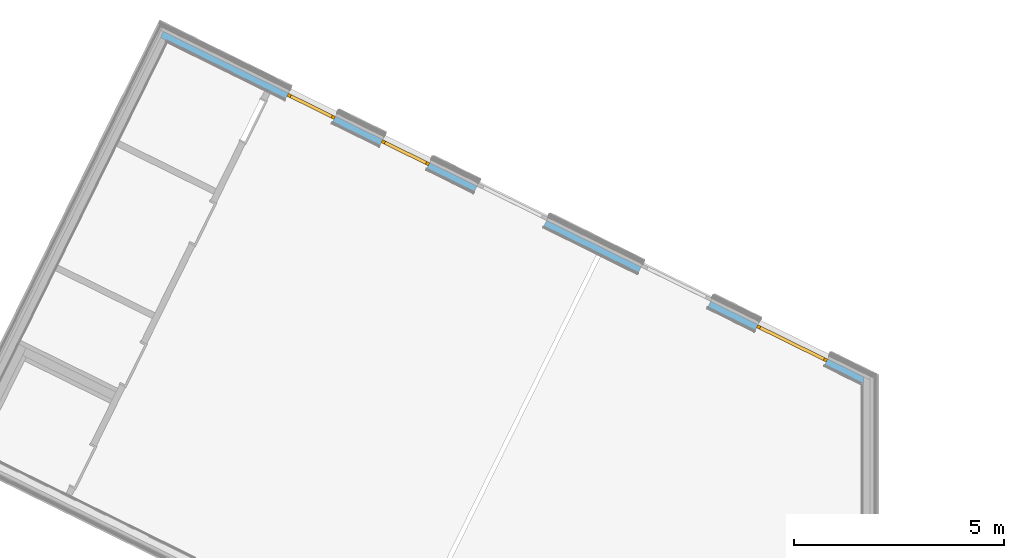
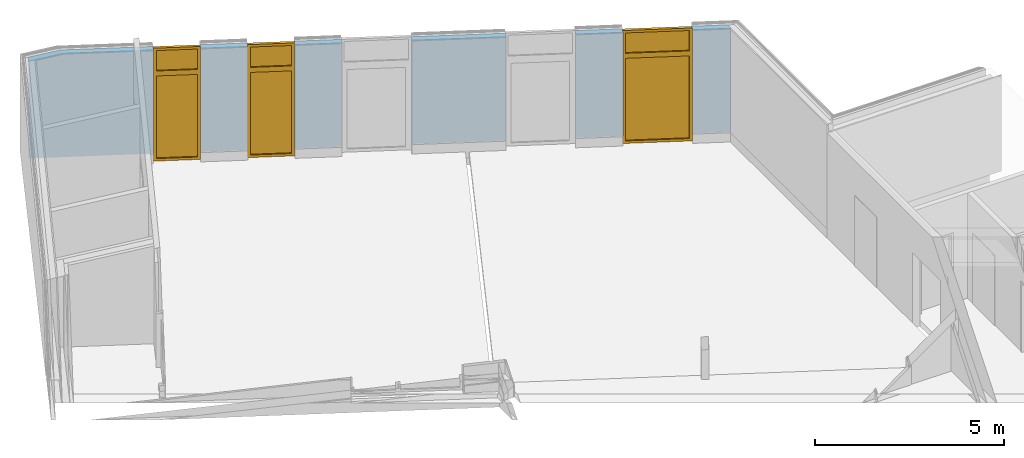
# One storey, part 19 of 23: 3 windows, 5 openings, plus 1 element that does not belong to this part.
"""IFC4 building model written with IfcOpenShell, lengths in metres."""

from ifc_helpers import new_model, entity, si_unit, converted_unit, derived_unit, frame, origin, origin_with_axes, place, context, subcontext, project, spatial, polyline, outline, extrude, clip, bounded_halfspace, closed_shell, open_shell, surface_model, source, transform, mapped, material, element, fill, save


model = new_model("IFC4")

# Units and contexts
model_context = context("Model", 3, precision=1e-05, world=origin())
body_context = subcontext(model_context, "Body", "Model", "MODEL_VIEW")
ifc_project = project(units=[si_unit("LENGTHUNIT", "METRE"), si_unit("AREAUNIT", "SQUARE_METRE"), si_unit("VOLUMEUNIT", "CUBIC_METRE"), si_unit("MASSUNIT", "GRAM", prefix="KILO"), converted_unit("PLANEANGLEUNIT", "DEGREE", entity("IfcPlaneAngleMeasure", 0.0174532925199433), si_unit("PLANEANGLEUNIT", "RADIAN"), dimensions=[0, 0, 0, 0, 0, 0, 0]), derived_unit("THERMALTRANSMITTANCEUNIT", [(si_unit("POWERUNIT", "WATT"), 1), (si_unit("THERMODYNAMICTEMPERATUREUNIT", "KELVIN"), -1), (si_unit("LENGTHUNIT", "METRE"), -2)]), derived_unit("VOLUMETRICFLOWRATEUNIT", [(si_unit("LENGTHUNIT", "METRE"), 3), (converted_unit("TIMEUNIT", "hour", entity("IfcTimeMeasure", 3600.0), si_unit("TIMEUNIT", "SECOND"), dimensions=[0, 0, 1, 0, 0, 0, 0]), -1), (si_unit("LENGTHUNIT", "METRE"), -1)])], contexts=[model_context])

# Site, building, storey
site_placement = place(None, origin())
site = spatial("IfcSite", under=ifc_project, at=site_placement, Name="Psychiatrie Neubau Wunstorf", CompositionType="ELEMENT")
building_placement = place(site_placement, origin())
building = spatial("IfcBuilding", under=site, at=building_placement, Name="Neubau H1 Sozialzentrum", CompositionType="ELEMENT")
storey_placement = place(building_placement, frame((0.0, 0.0, 0.7)))
storey = spatial("IfcBuildingStorey", under=building, at=storey_placement, Name="H1 Ebene 0", CompositionType="ELEMENT", Elevation=0.7)

# Wall, openings, windows
ifc_material = material(Name="WA-HD")
wall_placement = place(storey_placement, frame((-21.843734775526, 41.4813535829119, 0.3), z_axis=(0.0, 0.0, 1.0), x_axis=(0.896905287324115, -0.442222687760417, 0.0)))
wall = element("IfcWall", 1, at=wall_placement, inside=storey, material=ifc_material, context=body_context, shape_type="Clipping", body=[
    clip(extrude(outline(polyline([(-3.64414217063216, 7.39096041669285), (14.9901659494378, 7.39096041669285), (14.9112776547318, 7.5509597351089), (-3.64414217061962, 7.55095973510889), (-3.64414217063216, 7.39096041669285)])), frame((3.64414217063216, -7.39096041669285, 0.0), z_axis=(0.0, 0.0, 1.0), x_axis=(1.0, 0.0, 0.0)), (0.0, 0.0, 1.0), 3.35), bounded_halfspace(frame((0.442864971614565, 0.079999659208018, 3.24814105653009), z_axis=(0.222899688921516, 0.105378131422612, -0.969129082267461), x_axis=(-0.427404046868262, 0.904060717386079, 0.0)), True, origin_with_axes(), polyline([(0.923550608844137, 0.0), (0.847909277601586, 0.15999931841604), (0.0, 0.15999931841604), (0.0, 0.0), (0.923550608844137, 0.0)]))),
])
opening_1_placement = place(wall_placement, frame((17.6098696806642, 0.159999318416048, -0.5), z_axis=(0.0, -1.0, 0.0), x_axis=(0.0, 0.0, 1.0)))
opening_1 = element("IfcOpeningElement", 2, at=opening_1_placement, cuts=wall, Name="Fensteröffnung", ObjectType="Opening", context=body_context, shape_type="SweptSolid", body=[
    extrude(outline(polyline([(3.85, 1.85), (3.85, 0.0), (0.0, 0.0), (0.0, 1.85), (3.85, 1.85)])), origin_with_axes(), (0.0, 0.0, 1.0), 0.159999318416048),
])
opening_2_placement = place(wall_placement, frame((7.05986968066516, 0.159999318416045, -0.5), z_axis=(5.68436610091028e-15, -1.0, 0.0), x_axis=(0.0, 0.0, 1.0)))
opening_2 = element("IfcOpeningElement", 3, at=opening_2_placement, cuts=wall, Name="Fensteröffnung", ObjectType="Opening", context=body_context, shape_type="SweptSolid", body=[
    extrude(outline(polyline([(3.85, 1.25000000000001), (3.85, 0.0), (0.0, 0.0), (0.0, 1.25000000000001), (3.85, 1.25000000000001)])), origin_with_axes(), (0.0, 0.0, 1.0), 0.159999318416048),
])
opening_3_placement = place(wall_placement, frame((4.55986968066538, 0.159999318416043, -0.5), z_axis=(-5.68436610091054e-15, -1.0, 0.0), x_axis=(0.0, 0.0, 1.0)))
opening_3 = element("IfcOpeningElement", 4, at=opening_3_placement, cuts=wall, Name="Fensteröffnung", ObjectType="Opening", context=body_context, shape_type="SweptSolid", body=[
    extrude(outline(polyline([(3.85, 1.25000000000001), (3.85, 0.0), (0.0, 0.0), (0.0, 1.25000000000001), (3.85, 1.25000000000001)])), origin_with_axes(), (0.0, 0.0, 1.0), 0.15999931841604),
])
opening_4_placement = place(wall_placement, frame((12.6598668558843, 0.0, -0.5), z_axis=(0.0, 1.0, 0.0), x_axis=(0.0, 0.0, 1.0)))
element("IfcOpeningElement", 5, at=opening_4_placement, cuts=wall, Name="Türöffnung", ObjectType="Opening", context=body_context, shape_type="SweptSolid", body=[
    extrude(outline(polyline([(3.85, 1.85000000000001), (3.85, 0.0), (0.0, 0.0), (0.0, 1.85000000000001), (3.85, 1.85000000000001)])), origin_with_axes(), (0.0, 0.0, 1.0), 0.159999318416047),
])
opening_5_placement = place(wall_placement, frame((8.30986685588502, 0.0, -0.5), z_axis=(0.0, 1.0, 0.0), x_axis=(0.0, 0.0, 1.0)))
element("IfcOpeningElement", 6, at=opening_5_placement, cuts=wall, Name="Türöffnung", ObjectType="Opening", context=body_context, shape_type="SweptSolid", body=[
    extrude(outline(polyline([(3.85, 1.85), (3.85, 0.0), (0.0, 0.0), (0.0, 1.85), (3.85, 1.85)])), origin_with_axes(), (0.0, 0.0, 1.0), 0.15999931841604),
])
shared_shape_1 = source(origin_with_axes(), body_context, "Body", "SurfaceModel", [
    surface_model("IfcShellBasedSurfaceModel", [(1.84999999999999, -1.38884274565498e-06, 3.85), (1.84999999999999, -1.38884274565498e-06, 0.2), (1.76999999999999, -1.38884274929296e-06, 0.2), (1.76999999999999, -1.38884274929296e-06, 3.85), (1.84999999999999, 0.079998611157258, 0.2), (1.84999999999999, 0.079998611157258, 3.85), (1.76999999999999, 0.079998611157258, 3.85), (1.76999999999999, 0.079998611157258, 0.2)], [closed_shell([[[0, 1, 2, 3]], [[4, 5, 6, 7]], [[1, 0, 5, 4]], [[2, 1, 4, 7]], [[3, 2, 7, 6]], [[0, 3, 6, 5]]], orient=[[False], [False], [False], [False], [False], [False]])]),
    surface_model("IfcShellBasedSurfaceModel", [(0.0799999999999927, -1.38884274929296e-06, 3.85), (0.0799999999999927, -1.38884274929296e-06, 0.2), (0.0, -1.38884274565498e-06, 0.2), (0.0, -1.38884274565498e-06, 3.85), (0.0799999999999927, 0.0799986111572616, 0.2), (0.0799999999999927, 0.0799986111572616, 3.85), (0.0, 0.079998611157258, 3.85), (0.0, 0.0799986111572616, 0.2)], [closed_shell([[[0, 1, 2, 3]], [[4, 5, 6, 7]], [[1, 0, 5, 4]], [[2, 1, 4, 7]], [[3, 2, 7, 6]], [[0, 3, 6, 5]]], orient=[[False], [False], [False], [False], [False], [False]])]),
    surface_model("IfcShellBasedSurfaceModel", [(1.76999999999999, -1.38884274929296e-06, 0.28), (1.76999999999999, -1.38884274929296e-06, 0.2), (0.0799999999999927, -1.38884274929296e-06, 0.2), (0.0799999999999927, -1.38884274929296e-06, 0.28), (1.76999999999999, 0.079998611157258, 0.2), (1.76999999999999, 0.079998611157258, 0.28), (0.0799999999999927, 0.0799986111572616, 0.28), (0.0799999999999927, 0.0799986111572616, 0.2)], [closed_shell([[[0, 1, 2, 3]], [[4, 5, 6, 7]], [[1, 0, 5, 4]], [[2, 1, 4, 7]], [[3, 2, 7, 6]], [[0, 3, 6, 5]]], orient=[[False], [False], [False], [False], [False], [False]])]),
    surface_model("IfcShellBasedSurfaceModel", [(1.76999999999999, -1.38884274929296e-06, 3.85), (1.76999999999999, -1.38884274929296e-06, 3.77), (0.0799999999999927, -1.38884274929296e-06, 3.77), (0.0799999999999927, -1.38884274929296e-06, 3.85), (1.76999999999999, 0.079998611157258, 3.77), (1.76999999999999, 0.079998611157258, 3.85), (0.0799999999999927, 0.0799986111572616, 3.85), (0.0799999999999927, 0.0799986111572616, 3.77)], [closed_shell([[[0, 1, 2, 3]], [[4, 5, 6, 7]], [[1, 0, 5, 4]], [[2, 1, 4, 7]], [[3, 2, 7, 6]], [[0, 3, 6, 5]]], orient=[[False], [False], [False], [False], [False], [False]])]),
    surface_model("IfcShellBasedSurfaceModel", [(1.76999999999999, -1.38884274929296e-06, 3.11), (1.76999999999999, -1.38884274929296e-06, 2.95), (0.0799999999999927, -1.38884274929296e-06, 2.95), (0.0799999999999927, -1.38884274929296e-06, 3.11), (1.76999999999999, 0.079998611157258, 2.95), (1.76999999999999, 0.079998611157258, 3.11), (0.0799999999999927, 0.0799986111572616, 3.11), (0.0799999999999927, 0.0799986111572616, 2.95)], [closed_shell([[[0, 1, 2, 3]], [[4, 5, 6, 7]], [[1, 0, 5, 4]], [[2, 1, 4, 7]], [[3, 2, 7, 6]], [[0, 3, 6, 5]]], orient=[[False], [False], [False], [False], [False], [False]])]),
    surface_model("IfcShellBasedSurfaceModel", [(1.76999999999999, 0.039998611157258, 0.28), (0.0799999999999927, 0.039998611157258, 0.28), (0.0799999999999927, 0.0399986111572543, 2.95), (1.76999999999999, 0.039998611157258, 2.95)], [open_shell([[[0, 1, 2, 3]]], orient=[[False]])]),
    surface_model("IfcShellBasedSurfaceModel", [(1.76999999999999, 0.039998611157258, 3.11), (0.0799999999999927, 0.0399986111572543, 3.11), (0.0799999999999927, 0.0399986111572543, 3.77), (1.76999999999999, 0.039998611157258, 3.77)], [open_shell([[[0, 1, 2, 3]]], orient=[[False]])]),
])
window_1_placement = place(opening_1_placement, frame((0.0, 1.85, 0.0799993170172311), z_axis=(1.0, 0.0, 0.0), x_axis=(0.0, -1.0, -7.7715611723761e-16)))
window_1 = element("IfcWindow", 7, at=window_1_placement, inside=storey, Name="Fenster-SmartPart", OverallHeight=3.85, OverallWidth=1.85, PartitioningType="USERDEFINED", PredefinedType="WINDOW", context=body_context, shape_type="MappedRepresentation", body=[
    mapped(shared_shape_1, transform((0.0, 0.0, 0.0), x_axis=(1.0, 0.0, 0.0), y_axis=(0.0, 1.0, 0.0), z_axis=(0.0, 0.0, 1.0), scale=1.0)),
])
fill(opening_1, window_1)
shared_shape_2 = source(origin_with_axes(), body_context, "Body", "SurfaceModel", [
    surface_model("IfcShellBasedSurfaceModel", [(1.25000000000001, -1.38884277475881e-06, 3.85), (1.25000000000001, -1.38884277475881e-06, 0.2), (1.17000000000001, -1.38884277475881e-06, 0.2), (1.17000000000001, -1.38884277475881e-06, 3.85), (1.25000000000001, 0.0799986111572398, 0.2), (1.25000000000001, 0.0799986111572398, 3.85), (1.17000000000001, 0.0799986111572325, 3.85), (1.17000000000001, 0.0799986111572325, 0.2)], [closed_shell([[[0, 1, 2, 3]], [[4, 5, 6, 7]], [[1, 0, 5, 4]], [[2, 1, 4, 7]], [[3, 2, 7, 6]], [[0, 3, 6, 5]]], orient=[[False], [False], [False], [False], [False], [False]])]),
    surface_model("IfcShellBasedSurfaceModel", [(0.08, -1.38884276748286e-06, 3.85), (0.08, -1.38884276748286e-06, 0.2), (0.0, -1.38884277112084e-06, 0.2), (0.0, -1.38884277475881e-06, 3.85), (0.08, 0.0799986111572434, 0.2), (0.08, 0.0799986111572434, 3.85), (0.0, 0.0799986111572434, 3.85), (0.0, 0.0799986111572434, 0.2)], [closed_shell([[[0, 1, 2, 3]], [[4, 5, 6, 7]], [[1, 0, 5, 4]], [[2, 1, 4, 7]], [[3, 2, 7, 6]], [[0, 3, 6, 5]]], orient=[[False], [False], [False], [False], [False], [False]])]),
    surface_model("IfcShellBasedSurfaceModel", [(1.17000000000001, -1.38884277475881e-06, 0.28), (1.17000000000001, -1.38884277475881e-06, 0.2), (0.08, -1.38884276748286e-06, 0.2), (0.08, -1.38884276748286e-06, 0.28), (1.17000000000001, 0.0799986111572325, 0.2), (1.17000000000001, 0.0799986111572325, 0.28), (0.08, 0.0799986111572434, 0.28), (0.08, 0.0799986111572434, 0.2)], [closed_shell([[[0, 1, 2, 3]], [[4, 5, 6, 7]], [[1, 0, 5, 4]], [[2, 1, 4, 7]], [[3, 2, 7, 6]], [[0, 3, 6, 5]]], orient=[[False], [False], [False], [False], [False], [False]])]),
    surface_model("IfcShellBasedSurfaceModel", [(1.17000000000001, -1.38884277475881e-06, 3.85), (1.17000000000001, -1.38884277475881e-06, 3.77), (0.08, -1.38884276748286e-06, 3.77), (0.08, -1.38884276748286e-06, 3.85), (1.17000000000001, 0.0799986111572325, 3.77), (1.17000000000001, 0.0799986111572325, 3.85), (0.08, 0.0799986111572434, 3.85), (0.08, 0.0799986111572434, 3.77)], [closed_shell([[[0, 1, 2, 3]], [[4, 5, 6, 7]], [[1, 0, 5, 4]], [[2, 1, 4, 7]], [[3, 2, 7, 6]], [[0, 3, 6, 5]]], orient=[[False], [False], [False], [False], [False], [False]])]),
    surface_model("IfcShellBasedSurfaceModel", [(1.17000000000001, -1.38884277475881e-06, 3.11), (1.17000000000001, -1.38884277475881e-06, 2.95), (0.08, -1.38884276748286e-06, 2.95), (0.08, -1.38884276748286e-06, 3.11), (1.17000000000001, 0.0799986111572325, 2.95), (1.17000000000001, 0.0799986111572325, 3.11), (0.08, 0.0799986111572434, 3.11), (0.08, 0.0799986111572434, 2.95)], [closed_shell([[[0, 1, 2, 3]], [[4, 5, 6, 7]], [[1, 0, 5, 4]], [[2, 1, 4, 7]], [[3, 2, 7, 6]], [[0, 3, 6, 5]]], orient=[[False], [False], [False], [False], [False], [False]])]),
    surface_model("IfcShellBasedSurfaceModel", [(1.17000000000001, 0.0399986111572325, 0.28), (0.08, 0.0399986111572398, 0.28), (0.08, 0.0399986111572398, 2.95), (1.17000000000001, 0.0399986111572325, 2.95)], [open_shell([[[0, 1, 2, 3]]], orient=[[False]])]),
    surface_model("IfcShellBasedSurfaceModel", [(1.17000000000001, 0.0399986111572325, 3.11), (0.08, 0.0399986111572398, 3.11), (0.08, 0.0399986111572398, 3.77), (1.17000000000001, 0.0399986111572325, 3.77)], [open_shell([[[0, 1, 2, 3]]], orient=[[False]])]),
])
window_2_placement = place(opening_2_placement, frame((0.0, 1.25, 0.0799993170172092), z_axis=(1.0, 0.0, 0.0), x_axis=(0.0, -1.0, 3.27515792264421e-15)))
window_2 = element("IfcWindow", 8, at=window_2_placement, inside=storey, Name="Fenster-SmartPart", OverallHeight=3.85, OverallWidth=1.25, PartitioningType="USERDEFINED", PredefinedType="WINDOW", context=body_context, shape_type="MappedRepresentation", body=[
    mapped(shared_shape_2, transform((0.0, 0.0, 0.0), x_axis=(1.0, 0.0, 0.0), y_axis=(0.0, 1.0, 0.0), z_axis=(0.0, 0.0, 1.0), scale=1.0)),
])
fill(opening_2, window_2)
shared_shape_3 = source(origin_with_axes(), body_context, "Body", "SurfaceModel", [
    surface_model("IfcShellBasedSurfaceModel", [(1.25000000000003, -1.38884277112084e-06, 3.85), (1.25000000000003, -1.38884277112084e-06, 0.2), (1.17000000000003, -1.38884277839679e-06, 0.2), (1.17000000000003, -1.38884277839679e-06, 3.85), (1.25000000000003, 0.0799986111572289, 0.2), (1.25000000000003, 0.0799986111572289, 3.85), (1.17000000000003, 0.0799986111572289, 3.85), (1.17000000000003, 0.0799986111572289, 0.2)], [closed_shell([[[0, 1, 2, 3]], [[4, 5, 6, 7]], [[1, 0, 5, 4]], [[2, 1, 4, 7]], [[3, 2, 7, 6]], [[0, 3, 6, 5]]], orient=[[False], [False], [False], [False], [False], [False]])]),
    surface_model("IfcShellBasedSurfaceModel", [(0.0800000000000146, -1.38884277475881e-06, 3.85), (0.0800000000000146, -1.38884277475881e-06, 0.2), (0.0, -1.38884277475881e-06, 0.2), (0.0, -1.38884277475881e-06, 3.85), (0.0800000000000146, 0.0799986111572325, 0.2), (0.0800000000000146, 0.0799986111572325, 3.85), (0.0, 0.0799986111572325, 3.85), (0.0, 0.0799986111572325, 0.2)], [closed_shell([[[0, 1, 2, 3]], [[4, 5, 6, 7]], [[1, 0, 5, 4]], [[2, 1, 4, 7]], [[3, 2, 7, 6]], [[0, 3, 6, 5]]], orient=[[False], [False], [False], [False], [False], [False]])]),
    surface_model("IfcShellBasedSurfaceModel", [(1.17000000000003, -1.38884277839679e-06, 0.28), (1.17000000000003, -1.38884277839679e-06, 0.2), (0.0800000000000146, -1.38884277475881e-06, 0.2), (0.0800000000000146, -1.38884277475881e-06, 0.28), (1.17000000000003, 0.0799986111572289, 0.2), (1.17000000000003, 0.0799986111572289, 0.28), (0.0800000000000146, 0.0799986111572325, 0.28), (0.0800000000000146, 0.0799986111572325, 0.2)], [closed_shell([[[0, 1, 2, 3]], [[4, 5, 6, 7]], [[1, 0, 5, 4]], [[2, 1, 4, 7]], [[3, 2, 7, 6]], [[0, 3, 6, 5]]], orient=[[False], [False], [False], [False], [False], [False]])]),
    surface_model("IfcShellBasedSurfaceModel", [(1.17000000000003, -1.38884277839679e-06, 3.85), (1.17000000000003, -1.38884277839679e-06, 3.77), (0.0800000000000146, -1.38884277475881e-06, 3.77), (0.0800000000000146, -1.38884277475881e-06, 3.85), (1.17000000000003, 0.0799986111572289, 3.77), (1.17000000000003, 0.0799986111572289, 3.85), (0.0800000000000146, 0.0799986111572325, 3.85), (0.0800000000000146, 0.0799986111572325, 3.77)], [closed_shell([[[0, 1, 2, 3]], [[4, 5, 6, 7]], [[1, 0, 5, 4]], [[2, 1, 4, 7]], [[3, 2, 7, 6]], [[0, 3, 6, 5]]], orient=[[False], [False], [False], [False], [False], [False]])]),
    surface_model("IfcShellBasedSurfaceModel", [(1.17000000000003, -1.38884277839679e-06, 3.11), (1.17000000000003, -1.38884277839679e-06, 2.95), (0.0800000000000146, -1.38884277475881e-06, 2.95), (0.0800000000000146, -1.38884277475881e-06, 3.11), (1.17000000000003, 0.0799986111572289, 2.95), (1.17000000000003, 0.0799986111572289, 3.11), (0.0800000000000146, 0.0799986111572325, 3.11), (0.0800000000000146, 0.0799986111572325, 2.95)], [closed_shell([[[0, 1, 2, 3]], [[4, 5, 6, 7]], [[1, 0, 5, 4]], [[2, 1, 4, 7]], [[3, 2, 7, 6]], [[0, 3, 6, 5]]], orient=[[False], [False], [False], [False], [False], [False]])]),
    surface_model("IfcShellBasedSurfaceModel", [(1.17000000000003, 0.0399986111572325, 0.28), (0.0800000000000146, 0.0399986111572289, 0.28), (0.0800000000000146, 0.0399986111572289, 2.95), (1.17000000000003, 0.0399986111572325, 2.95)], [open_shell([[[0, 1, 2, 3]]], orient=[[False]])]),
    surface_model("IfcShellBasedSurfaceModel", [(1.17000000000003, 0.0399986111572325, 3.11), (0.0800000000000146, 0.0399986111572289, 3.11), (0.0800000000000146, 0.0399986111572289, 3.77), (1.17000000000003, 0.0399986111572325, 3.77)], [open_shell([[[0, 1, 2, 3]]], orient=[[False]])]),
])
window_3_placement = place(opening_3_placement, frame((0.0, 1.25000000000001, 0.0799993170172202), z_axis=(1.0, 0.0, 0.0), x_axis=(0.0, -1.0, -5.49560397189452e-15)))
window_3 = element("IfcWindow", 9, at=window_3_placement, inside=storey, Name="Fenster-SmartPart", OverallHeight=3.85, OverallWidth=1.25, PartitioningType="USERDEFINED", PredefinedType="WINDOW", context=body_context, shape_type="MappedRepresentation", body=[
    mapped(shared_shape_3, transform((0.0, 0.0, 0.0), x_axis=(1.0, 0.0, 0.0), y_axis=(0.0, 1.0, 0.0), z_axis=(0.0, 0.0, 1.0), scale=1.0)),
])
fill(opening_3, window_3)

save(model, "model.ifc")
